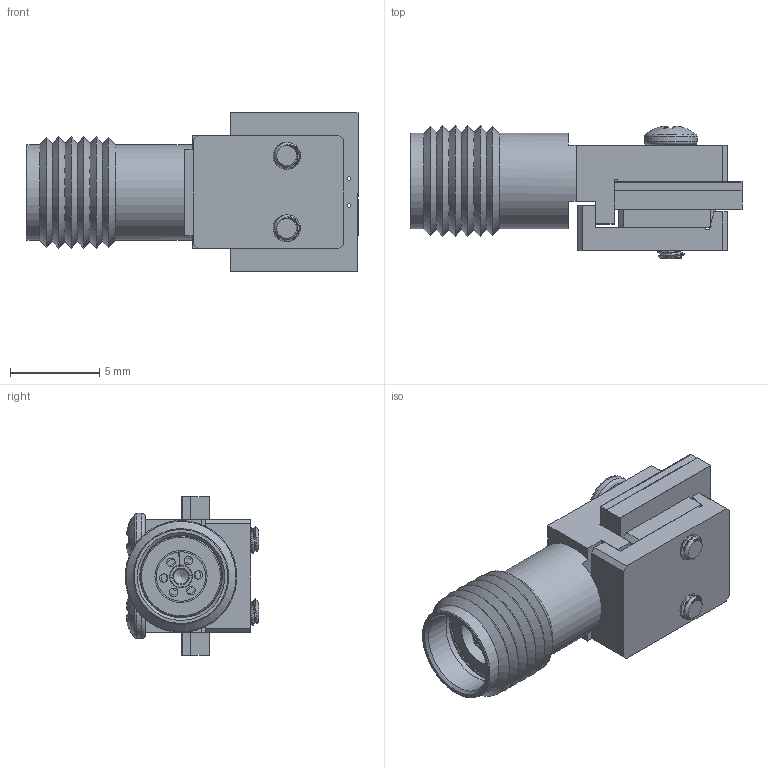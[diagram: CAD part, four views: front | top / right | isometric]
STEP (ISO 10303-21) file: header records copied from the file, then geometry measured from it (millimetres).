
FILE_DESCRIPTION (( 'STEP AP214' ), '1' );
FILE_NAME ('TMB-E9F2-1L1-01.STEP', '2020-09-03T01:45:16', ( '' ), ( '' ), 'SwSTEP 2.0', 'SolidWorks 2019', '' );
FILE_SCHEMA (( 'AUTOMOTIVE_DESIGN' ));
Length unit declared in the file: millimetre
Products named in the file (12): plate-solderless-base; 103-1873-226080A^61-20017-44071E_61-20017-44070E_EL-assy-solderless; 101-2199-440070C^61-20017-44071E_61-20017-44070E_EL-assy-solderless; 91772A055_Passivated 18-8 Stainless Steel Pan Head Phillips Screw, 0-80 Thread, 1_4_ Long _ McMaster-Carr_91772A055; 61-20017-44071E^61-20017-44070E_EL-assy-solderless_ﾄｬﾈﾏｨｨ_; 102-1161-700000D^61-20017-44071E_61-20017-44070E_EL-assy-solderless; 101-2423-440000B^61-20017-44071E_61-20017-44070E_EL-assy-solderless; CONNECTOR-PCB-EDGE-MOUNT_solderless; TMB-E9F2-1L1-01; 61-20017-44070E^EL-assy-solderless_ﾄｬﾈﾏｨｨ_; plate-solderless; 102-1416-700000A(2)^61-20017-44071E_61-20017-44070E_EL-assy-solderless
Assembly tree (12 placements, depth 4):
  TMB-E9F2-1L1-01
    CONNECTOR-PCB-EDGE-MOUNT_solderless
    plate-solderless-base
    91772A055_Passivated 18-8 Stainless Steel Pan Head Phillips Screw, 0-80 Thread, 1_4_ Long _ McMaster-Carr_91772A055  x2
    plate-solderless
    61-20017-44070E^EL-assy-solderless_ﾄｬﾈﾏｨｨ_
      61-20017-44071E^61-20017-44070E_EL-assy-solderless_ﾄｬﾈﾏｨｨ_
        102-1161-700000D^61-20017-44071E_61-20017-44070E_EL-assy-solderless
        101-2199-440070C^61-20017-44071E_61-20017-44070E_EL-assy-solderless
        103-1873-226080A^61-20017-44071E_61-20017-44070E_EL-assy-solderless
        102-1416-700000A(2)^61-20017-44071E_61-20017-44070E_EL-assy-solderless
        101-2423-440000B^61-20017-44071E_61-20017-44070E_EL-assy-solderless
Bounding box: 18.58 x 7.47 x 8.89 mm (x, y, z)
Volume: 494.1 mm3; surface area: 1867.3 mm2
Topology: 16 solids, 16 shells, 575 faces, 1675 edges, 1152 vertices
Faces by surface type: cylinder 318, plane 188, cone 53, torus 8, bspline 6, sphere 2
Full cylindrical faces by diameter (mm): 0.178 x1, 0.203 x150, 0.31 x1, 0.47 x6, 0.57 x1, 0.73 x1, 0.94 x1, 0.97 x1, 0.98 x1, 1 x2, 1.12 x1, 1.191 x2, 1.22 x1, 1.27 x2, 1.311 x2, 1.575 x2, 1.68 x1, 1.702 x2, 1.778 x1, 2.083 x2, 2.16 x1, 2.184 x10, 2.58 x1, 2.92 x2, 2.946 x2, 3.24 x1, 4.49 x1, 4.51 x1, 4.55 x1, 4.58 x1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
Entity records: 17689 total; most frequent: CARTESIAN_POINT 4661, DIRECTION 2480, ORIENTED_EDGE 2102, EDGE_LOOP 1091, AXIS2_PLACEMENT_3D 1053, EDGE_CURVE 1051, VERTEX_POINT 838, FACE_OUTER_BOUND 699
